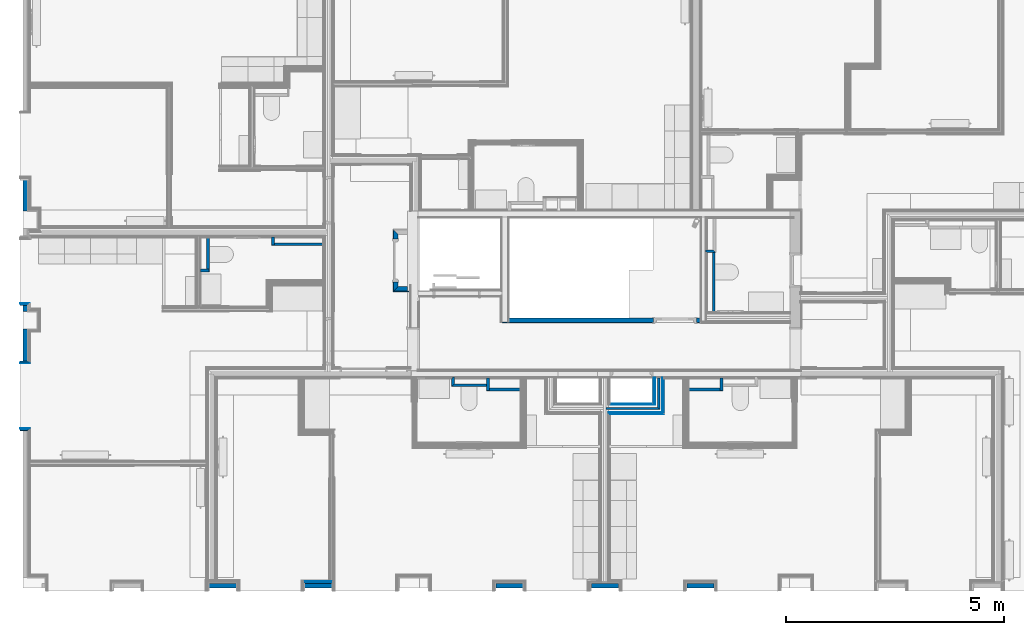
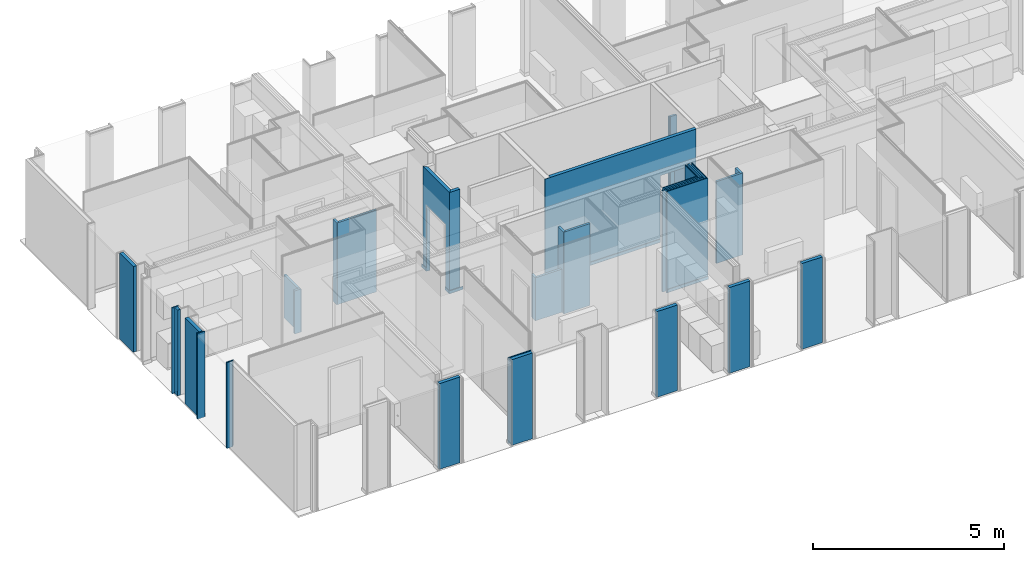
# One storey, part 3 of 65: 42 walls, 2 openings.
"""IFC2X3 building model written with IfcOpenShell, lengths in metres."""

import ifcopenshell
import ifcopenshell.guid

model = None  # the IFC model being written
_history = None  # IfcOwnerHistory: only IFC2X3 demands one
_inside = {}  # id of a spatial element -> (the spatial element, [elements in it])
_under = {}  # id of a project, library or spatial element -> (it, [spatial elements below it])
_declared = {}  # id of a project -> (the project, [libraries it declares])
_typed = {}  # id of a type object -> (the type object, [elements of that type])
_made_of = {}  # id of a material, layer set ... -> (it, [elements and type objects made of it])


def new_model(schema):
    """Start an empty IFC model of exactly this schema.

    Asked for "IFC4X3", IfcOpenShell would pick the latest addendum, in which some entities
    have other attributes; the version numbers below select the first issue.
    IFC2X3 requires an IfcOwnerHistory on every rooted entity: one is made here for all.
    """
    global model, _history
    if schema == "IFC4X3":
        model = ifcopenshell.file(schema_version=(4, 3, 0, 0))
    else:
        model = ifcopenshell.file(schema=schema)
    _inside.clear()
    _under.clear()
    _declared.clear()
    _typed.clear()
    _made_of.clear()
    _history = None
    if model.schema == "IFC2X3":
        org = make("IfcOrganization", Name="unknown")
        user = make(
            "IfcPersonAndOrganization",
            ThePerson=make("IfcPerson", FamilyName="unknown"),
            TheOrganization=org,
        )
        app = make(
            "IfcApplication",
            ApplicationDeveloper=org,
            Version="unknown",
            ApplicationFullName="unknown",
            ApplicationIdentifier="unknown",
        )
        _history = make(
            "IfcOwnerHistory",
            OwningUser=user,
            OwningApplication=app,
            ChangeAction="ADDED",
            CreationDate=0,
        )
    return model


def make(cls, **values):
    """One entity of the class cls with the attributes given. An attribute that is None is left unset."""
    return model.create_entity(
        cls, **{name: value for name, value in values.items() if value is not None}
    )


def entity(cls, *values):
    """Any entity or typed value of the class cls, its attributes in the order of the schema. None: left unset."""
    e = model.create_entity(cls)
    for i, value in enumerate(values):
        if value is not None:
            e[i] = value
    return e


def rooted(cls, **values):
    """An entity with a GlobalId (a new one), such as an element, a storey or a relation."""
    return make(cls, GlobalId=ifcopenshell.guid.new(), OwnerHistory=_history, **values)


def si_unit(unit_type, name, prefix=None):
    """IfcSIUnit, for example si_unit("LENGTHUNIT", "METRE", prefix="MILLI")."""
    return make("IfcSIUnit", UnitType=unit_type, Prefix=prefix, Name=name)


def converted_unit(unit_type, name, factor, base, dimensions=None, offset=None):
    """IfcConversionBasedUnit, such as the inch: factor (a typed value) times the base unit."""
    return make(
        "IfcConversionBasedUnit"
        if offset is None
        else "IfcConversionBasedUnitWithOffset",
        ConversionOffset=offset,
        Dimensions=None
        if dimensions is None
        else entity("IfcDimensionalExponents", *dimensions),
        UnitType=unit_type,
        Name=name,
        ConversionFactor=make(
            "IfcMeasureWithUnit", ValueComponent=factor, UnitComponent=base
        ),
    )


def derived_unit(unit_type, elements):
    """IfcDerivedUnit: a product of units, each with its exponent."""
    return make(
        "IfcDerivedUnit",
        Elements=[
            make("IfcDerivedUnitElement", Unit=unit, Exponent=power)
            for unit, power in elements
        ],
        UnitType=unit_type,
    )


def money_unit(currency):
    """IfcMonetaryUnit."""
    return make("IfcMonetaryUnit", Currency=currency)


def assignment(units):
    """IfcUnitAssignment: the units of a project."""
    return None if units is None else make("IfcUnitAssignment", Units=units)


def point(xyz):
    """IfcCartesianPoint."""
    return None if xyz is None else make("IfcCartesianPoint", Coordinates=xyz)


def direction(xyz):
    """IfcDirection."""
    return None if xyz is None else make("IfcDirection", DirectionRatios=xyz)


def frame(location, z_axis=None, x_axis=None):
    """IfcAxis2Placement3D, a coordinate frame: its origin and axes. An axis left out is left unset."""
    return make(
        "IfcAxis2Placement3D",
        Location=point(location),
        Axis=direction(z_axis),
        RefDirection=direction(x_axis),
    )


def frame_2d(location, x_axis=None):
    """IfcAxis2Placement2D, a coordinate frame in the plane: its origin and x axis."""
    return make(
        "IfcAxis2Placement2D", Location=point(location), RefDirection=direction(x_axis)
    )


def origin_with_axes():
    """The frame at (0, 0, 0) with the z axis (0, 0, 1) and the x axis (1, 0, 0) written out."""
    return frame((0.0, 0.0, 0.0), z_axis=(0.0, 0.0, 1.0), x_axis=(1.0, 0.0, 0.0))


def place(relative_to, where):
    """IfcLocalPlacement: puts the frame where relative to a parent placement (None: the world)."""
    return make(
        "IfcLocalPlacement", PlacementRelTo=relative_to, RelativePlacement=where
    )


def context(
    kind, dimensions, precision=None, world=None, true_north=None, identifier=None
):
    """IfcGeometricRepresentationContext, for example the 3D "Model" context."""
    return make(
        "IfcGeometricRepresentationContext",
        ContextIdentifier=identifier,
        ContextType=kind,
        CoordinateSpaceDimension=dimensions,
        Precision=precision,
        WorldCoordinateSystem=world,
        TrueNorth=true_north,
    )


def subcontext(parent, identifier, kind, view, scale=None):
    """IfcGeometricRepresentationSubContext, for example "Body" below "Model"."""
    return make(
        "IfcGeometricRepresentationSubContext",
        ContextIdentifier=identifier,
        ContextType=kind,
        ParentContext=parent,
        TargetScale=scale,
        TargetView=view,
    )


def project(units=None, contexts=None):
    """IfcProject with its units and contexts."""
    return rooted(
        "IfcProject",
        Name="project",
        RepresentationContexts=contexts,
        UnitsInContext=assignment(units),
    )


def spatial(cls, under=None, at=None, **own):
    """A site, building, storey or space (cls), placed at a placement, below another one or the project."""
    s = rooted(cls, ObjectPlacement=at, **own)
    if under is not None:
        _under.setdefault(under.id(), (under, []))[1].append(s)
    return s


def polyline(points):
    """IfcPolyline through the points."""
    return make("IfcPolyline", Points=[point(p) for p in points])


def profile(cls, at=None, kind="AREA", **sizes):
    """A parametric profile (cls). Its sizes go by their IFC names, for example OverallWidth=200.0."""
    return make(cls, ProfileType=kind, Position=at, **sizes)


def rectangle(**sizes):
    """IfcRectangleProfileDef."""
    return profile("IfcRectangleProfileDef", **sizes)


def outline(outer, holes=None, kind="AREA"):
    """IfcArbitraryClosedProfileDef: a profile drawn as a closed curve; with holes, ...WithVoids."""
    if holes is None:
        return make("IfcArbitraryClosedProfileDef", ProfileType=kind, OuterCurve=outer)
    return make(
        "IfcArbitraryProfileDefWithVoids",
        ProfileType=kind,
        OuterCurve=outer,
        InnerCurves=holes,
    )


def extrude(swept, where, along, depth):
    """IfcExtrudedAreaSolid: the profile swept, set in the frame where, extruded along a direction by depth."""
    return make(
        "IfcExtrudedAreaSolid",
        SweptArea=swept,
        Position=where,
        ExtrudedDirection=direction(along),
        Depth=depth,
    )


def clip(a, b, op="DIFFERENCE"):
    """IfcBooleanClippingResult: the solid a cut by the half space b."""
    return make(
        "IfcBooleanClippingResult", Operator=op, FirstOperand=a, SecondOperand=b
    )


def bounded_halfspace(plane, agree, where, boundary):
    """IfcPolygonalBoundedHalfSpace: a half space limited to a polygon's prism."""
    return make(
        "IfcPolygonalBoundedHalfSpace",
        BaseSurface=make("IfcPlane", Position=plane),
        AgreementFlag=agree,
        Position=where,
        PolygonalBoundary=boundary,
    )


def shape(context_of_items, identifier, shape_type, items):
    """IfcShapeRepresentation: the items that make up one representation, for example the "Body"."""
    return make(
        "IfcShapeRepresentation",
        ContextOfItems=context_of_items,
        RepresentationIdentifier=identifier,
        RepresentationType=shape_type,
        Items=items,
    )


def material(Name=None, Category=None):
    """IfcMaterial."""
    return make("IfcMaterial", Name=Name, Category=Category)


def layer(
    of_material, thickness, ventilated=None, Name=None, Category=None, Priority=None
):
    """IfcMaterialLayer: one layer of a wall or slab, of a material (None: an air gap)."""
    return make(
        "IfcMaterialLayer",
        Material=of_material,
        LayerThickness=thickness,
        IsVentilated=ventilated,
        Name=Name,
        Category=Category,
        Priority=Priority,
    )


def layer_set(layers, Name=None):
    """IfcMaterialLayerSet."""
    return make("IfcMaterialLayerSet", MaterialLayers=layers, LayerSetName=Name)


def layer_usage(for_layer_set, set_direction, sense, offset, extent=None):
    """IfcMaterialLayerSetUsage: how a layer set lies in its element."""
    return make(
        "IfcMaterialLayerSetUsage",
        ForLayerSet=for_layer_set,
        LayerSetDirection=set_direction,
        DirectionSense=sense,
        OffsetFromReferenceLine=offset,
        ReferenceExtent=extent,
    )


def made_of(thing, what):
    """Note that an element or type object is made of a material, layer set ...; save() writes the relation."""
    if what is not None:
        _made_of.setdefault(what.id(), (what, []))[1].append(thing)
    return thing


def type_object(cls, material=None, **own):
    """A type object (cls), such as IfcWallType, which elements share."""
    return made_of(rooted(cls, **own), material)


def element(
    cls,
    number,
    at=None,
    inside=None,
    cuts=None,
    type_object=None,
    material=None,
    context=None,
    identifier="Body",
    shape_type=None,
    held_by="IfcProductDefinitionShape",
    body=None,
    shapes=None,
    **own,
):
    """One element of the class cls, such as IfcWall. Its Tag is "e" and its number.

    at: its placement. inside: the storey or other place that contains it. cuts: it is an
    opening in that element (IfcRelVoidsElement). A single representation is given by context,
    identifier, shape_type and body (its items); several are given by shapes. held_by: the class
    of the entity that holds the representations. save() writes the other relations.
    """
    e = rooted(cls, Tag="e%d" % number, ObjectPlacement=at, **own)
    if body is not None:
        shapes = [shape(context, identifier, shape_type, body)]
    if shapes is not None:
        e.Representation = make(held_by, Representations=shapes)
    if inside is not None:
        _inside.setdefault(inside.id(), (inside, []))[1].append(e)
    if cuts is not None:
        rooted(
            "IfcRelVoidsElement", RelatingBuildingElement=cuts, RelatedOpeningElement=e
        )
    if type_object is not None:
        _typed.setdefault(type_object.id(), (type_object, []))[1].append(e)
    return made_of(e, material)


def aggregate(whole, parts):
    """IfcRelAggregates: a whole, such as a stair, and the parts it consists of."""
    return rooted("IfcRelAggregates", RelatingObject=whole, RelatedObjects=parts)


def save(model, path):
    """Write the relations noted so far, then the file.

    IfcRelAggregates (storeys below a building ...), IfcRelContainedInSpatialStructure (elements
    in a storey), IfcRelDefinesByType, IfcRelAssociatesMaterial and IfcRelDeclares: one each for
    every whole, place, type object, material and project.
    """
    for whole, parts in _under.values():
        aggregate(whole, parts)
    for where, things in _inside.values():
        rooted(
            "IfcRelContainedInSpatialStructure",
            RelatedElements=things,
            RelatingStructure=where,
        )
    for kind, things in _typed.values():
        rooted("IfcRelDefinesByType", RelatedObjects=things, RelatingType=kind)
    for what, things in _made_of.values():
        rooted("IfcRelAssociatesMaterial", RelatedObjects=things, RelatingMaterial=what)
    for by, libraries in _declared.values():
        rooted("IfcRelDeclares", RelatingContext=by, RelatedDefinitions=libraries)
    model.write(path)


model = new_model("IFC2X3")

# Units and contexts
model_context = context("Model", 3, precision=1e-05, world=origin_with_axes(), true_north=direction((0.0, 1.0)))
body_context = subcontext(model_context, "Body", "Model", "MODEL_VIEW", scale=1.0)
ifc_project = project(units=[si_unit("LENGTHUNIT", "METRE"), si_unit("AREAUNIT", "SQUARE_METRE"), si_unit("VOLUMEUNIT", "CUBIC_METRE"), si_unit("ABSORBEDDOSEUNIT", "GRAY"), si_unit("AMOUNTOFSUBSTANCEUNIT", "MOLE"), si_unit("DOSEEQUIVALENTUNIT", "SIEVERT"), si_unit("ELECTRICCAPACITANCEUNIT", "FARAD"), si_unit("ELECTRICCHARGEUNIT", "COULOMB"), si_unit("ELECTRICCONDUCTANCEUNIT", "SIEMENS"), si_unit("ELECTRICCURRENTUNIT", "AMPERE"), si_unit("ELECTRICRESISTANCEUNIT", "OHM"), si_unit("ELECTRICVOLTAGEUNIT", "VOLT"), si_unit("ENERGYUNIT", "JOULE"), si_unit("FORCEUNIT", "NEWTON"), si_unit("FREQUENCYUNIT", "HERTZ"), si_unit("ILLUMINANCEUNIT", "LUX"), si_unit("INDUCTANCEUNIT", "HENRY"), si_unit("LUMINOUSFLUXUNIT", "LUMEN"), si_unit("LUMINOUSINTENSITYUNIT", "CANDELA"), si_unit("MAGNETICFLUXDENSITYUNIT", "TESLA"), si_unit("MAGNETICFLUXUNIT", "WEBER"), si_unit("MASSUNIT", "GRAM"), converted_unit("PLANEANGLEUNIT", "degree", entity("IfcReal", 0.0174532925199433), si_unit("PLANEANGLEUNIT", "RADIAN"), dimensions=[0, 0, 0, 0, 0, 0, 0]), si_unit("POWERUNIT", "WATT"), si_unit("PRESSUREUNIT", "PASCAL"), si_unit("RADIOACTIVITYUNIT", "BECQUEREL"), si_unit("SOLIDANGLEUNIT", "STERADIAN"), si_unit("THERMODYNAMICTEMPERATUREUNIT", "KELVIN"), si_unit("TIMEUNIT", "SECOND"), derived_unit("ACCELERATIONUNIT", [(si_unit("LENGTHUNIT", "METRE"), 1), (si_unit("TIMEUNIT", "SECOND"), -2)]), derived_unit("ANGULARVELOCITYUNIT", [(converted_unit("PLANEANGLEUNIT", "degree", entity("IfcReal", 0.0174532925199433), si_unit("PLANEANGLEUNIT", "RADIAN"), dimensions=[0, 0, 0, 0, 0, 0, 0]), 1), (si_unit("TIMEUNIT", "SECOND"), -1)]), derived_unit("CURVATUREUNIT", [(converted_unit("PLANEANGLEUNIT", "degree", entity("IfcReal", 0.0174532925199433), si_unit("PLANEANGLEUNIT", "RADIAN"), dimensions=[0, 0, 0, 0, 0, 0, 0]), 1), (si_unit("LENGTHUNIT", "METRE"), -1)]), derived_unit("DYNAMICVISCOSITYUNIT", [(si_unit("PRESSUREUNIT", "PASCAL"), 1), (si_unit("TIMEUNIT", "SECOND"), 1)]), derived_unit("HEATFLUXDENSITYUNIT", [(si_unit("POWERUNIT", "WATT"), 1), (si_unit("LENGTHUNIT", "METRE"), -2)]), derived_unit("HEATINGVALUEUNIT", [(si_unit("ENERGYUNIT", "JOULE"), 1), (si_unit("MASSUNIT", "GRAM"), -1)]), derived_unit("INTEGERCOUNTRATEUNIT", [(si_unit("TIMEUNIT", "SECOND"), -1)]), derived_unit("IONCONCENTRATIONUNIT", [(si_unit("MASSUNIT", "GRAM"), 1), (si_unit("VOLUMEUNIT", "CUBIC_METRE"), -1)]), derived_unit("ISOTHERMALMOISTURECAPACITYUNIT", [(si_unit("VOLUMEUNIT", "CUBIC_METRE"), 1), (si_unit("MASSUNIT", "GRAM"), -1)]), derived_unit("KINEMATICVISCOSITYUNIT", [(si_unit("AREAUNIT", "SQUARE_METRE"), 1), (si_unit("TIMEUNIT", "SECOND"), -1)]), derived_unit("LINEARFORCEUNIT", [(si_unit("FORCEUNIT", "NEWTON"), 1), (si_unit("LENGTHUNIT", "METRE"), -1)]), derived_unit("LINEARMOMENTUNIT", [(si_unit("FORCEUNIT", "NEWTON"), 1), (si_unit("LENGTHUNIT", "METRE"), -1)]), derived_unit("LINEARSTIFFNESSUNIT", [(si_unit("FORCEUNIT", "NEWTON"), 1), (si_unit("LENGTHUNIT", "METRE"), -1)]), derived_unit("LINEARVELOCITYUNIT", [(si_unit("LENGTHUNIT", "METRE"), 1), (si_unit("TIMEUNIT", "SECOND"), -1)]), derived_unit("LUMINOUSINTENSITYDISTRIBUTIONUNIT", [(si_unit("LUMINOUSINTENSITYUNIT", "CANDELA"), 1), (si_unit("LUMINOUSFLUXUNIT", "LUMEN"), -1)]), derived_unit("MASSDENSITYUNIT", [(si_unit("MASSUNIT", "GRAM"), 1), (si_unit("VOLUMEUNIT", "CUBIC_METRE"), -1)]), derived_unit("MASSFLOWRATEUNIT", [(si_unit("MASSUNIT", "GRAM"), 1), (si_unit("TIMEUNIT", "SECOND"), -1)]), derived_unit("MASSPERLENGTHUNIT", [(si_unit("MASSUNIT", "GRAM"), 1), (si_unit("LENGTHUNIT", "METRE"), -1)]), derived_unit("MODULUSOFELASTICITYUNIT", [(si_unit("FORCEUNIT", "NEWTON"), 1), (si_unit("AREAUNIT", "SQUARE_METRE"), -1)]), derived_unit("MODULUSOFLINEARSUBGRADEREACTIONUNIT", [(si_unit("FORCEUNIT", "NEWTON"), 1), (si_unit("LENGTHUNIT", "METRE"), -2)]), derived_unit("MODULUSOFROTATIONALSUBGRADEREACTIONUNIT", [(si_unit("FORCEUNIT", "NEWTON"), 1), (si_unit("LENGTHUNIT", "METRE"), 1)]), derived_unit("MODULUSOFSUBGRADEREACTIONUNIT", [(si_unit("FORCEUNIT", "NEWTON"), 1), (si_unit("VOLUMEUNIT", "CUBIC_METRE"), -1)]), derived_unit("MOISTUREDIFFUSIVITYUNIT", [(si_unit("VOLUMEUNIT", "CUBIC_METRE"), 1), (si_unit("TIMEUNIT", "SECOND"), -1)]), derived_unit("MOLECULARWEIGHTUNIT", [(si_unit("MASSUNIT", "GRAM"), 1), (si_unit("AMOUNTOFSUBSTANCEUNIT", "MOLE"), -1)]), derived_unit("PLANARFORCEUNIT", [(si_unit("FORCEUNIT", "NEWTON"), 1), (si_unit("LENGTHUNIT", "METRE"), -2)]), derived_unit("ROTATIONALFREQUENCYUNIT", [(si_unit("TIMEUNIT", "SECOND"), -1)]), derived_unit("ROTATIONALMASSUNIT", [(si_unit("MASSUNIT", "GRAM"), 1), (si_unit("LENGTHUNIT", "METRE"), 2)]), derived_unit("ROTATIONALSTIFFNESSUNIT", [(si_unit("FORCEUNIT", "NEWTON"), 1), (si_unit("LENGTHUNIT", "METRE"), 1), (converted_unit("PLANEANGLEUNIT", "degree", entity("IfcReal", 0.0174532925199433), si_unit("PLANEANGLEUNIT", "RADIAN"), dimensions=[0, 0, 0, 0, 0, 0, 0]), -1)]), derived_unit("SECTIONAREAINTEGRALUNIT", [(si_unit("LENGTHUNIT", "METRE"), 5)]), derived_unit("SECTIONMODULUSUNIT", [(si_unit("LENGTHUNIT", "METRE"), 3)]), derived_unit("SHEARMODULUSUNIT", [(si_unit("FORCEUNIT", "NEWTON"), 1), (si_unit("AREAUNIT", "SQUARE_METRE"), -1)]), derived_unit("SOUNDPOWERUNIT", [(si_unit("ENERGYUNIT", "JOULE"), 1), (si_unit("TIMEUNIT", "SECOND"), -1)]), derived_unit("SPECIFICHEATCAPACITYUNIT", [(si_unit("FORCEUNIT", "NEWTON"), 1), (si_unit("MASSUNIT", "GRAM"), -1), (si_unit("THERMODYNAMICTEMPERATUREUNIT", "KELVIN"), -1)]), derived_unit("TEMPERATUREGRADIENTUNIT", [(si_unit("THERMODYNAMICTEMPERATUREUNIT", "KELVIN"), 1), (si_unit("LENGTHUNIT", "METRE"), -1)]), derived_unit("THERMALADMITTANCEUNIT", [(si_unit("POWERUNIT", "WATT"), 1), (si_unit("AREAUNIT", "SQUARE_METRE"), -1), (si_unit("THERMODYNAMICTEMPERATUREUNIT", "KELVIN"), -1)]), derived_unit("THERMALCONDUCTANCEUNIT", [(si_unit("POWERUNIT", "WATT"), 1), (si_unit("LENGTHUNIT", "METRE"), -1), (si_unit("THERMODYNAMICTEMPERATUREUNIT", "KELVIN"), -1)]), derived_unit("THERMALEXPANSIONCOEFFICIENTUNIT", [(si_unit("THERMODYNAMICTEMPERATUREUNIT", "KELVIN"), -1)]), derived_unit("THERMALRESISTANCEUNIT", [(si_unit("AREAUNIT", "SQUARE_METRE"), 1), (si_unit("POWERUNIT", "WATT"), -1)]), derived_unit("THERMALTRANSMITTANCEUNIT", [(si_unit("POWERUNIT", "WATT"), 1), (si_unit("AREAUNIT", "SQUARE_METRE"), -1), (si_unit("THERMODYNAMICTEMPERATUREUNIT", "KELVIN"), -1)]), derived_unit("TORQUEUNIT", [(si_unit("FORCEUNIT", "NEWTON"), 1), (si_unit("LENGTHUNIT", "METRE"), 1)]), derived_unit("VAPORPERMEABILITYUNIT", [(si_unit("MASSUNIT", "GRAM"), 1), (si_unit("TIMEUNIT", "SECOND"), -1)]), derived_unit("VOLUMETRICFLOWRATEUNIT", [(si_unit("VOLUMEUNIT", "CUBIC_METRE"), 1), (si_unit("TIMEUNIT", "SECOND"), -1)]), derived_unit("WARPINGCONSTANTUNIT", [(si_unit("LENGTHUNIT", "METRE"), 6)]), derived_unit("WARPINGMOMENTUNIT", [(si_unit("FORCEUNIT", "NEWTON"), 1), (si_unit("LENGTHUNIT", "METRE"), 2)]), money_unit("GBP")], contexts=[model_context])

# Site, building, storey
site_placement = place(None, origin_with_axes())
site = spatial("IfcSite", under=ifc_project, at=site_placement, Name="Site", CompositionType="ELEMENT")
building_placement = place(site_placement, origin_with_axes())
building = spatial("IfcBuilding", under=site, at=building_placement, Name="Building01", CompositionType="ELEMENT")
storey_placement = place(building_placement, frame((0.0, 0.0, 8.64), z_axis=(0.0, 0.0, 1.0), x_axis=(1.0, 0.0, 0.0)))
storey = spatial("IfcBuildingStorey", under=building, at=storey_placement, Name="2F", CompositionType="ELEMENT", Elevation=8.64)

# Walls
ifc_material_1 = material(Name="A_BSUK_WallsExternal_Block")
ifc_layer_1 = layer(ifc_material_1, 0.1, ventilated=False)
ifc_layer_set_1 = layer_set([ifc_layer_1])
ifc_layer_usage_1 = layer_usage(ifc_layer_set_1, "AXIS2", "POSITIVE", 0.0)
wall_type_1 = type_object("IfcWallType", Name="A-Walls-ExternalBlock", PredefinedType="NOTDEFINED")
wall_1_placement = place(storey_placement, frame((0.17, 9.51418, 0.0), z_axis=(0.0, 0.0, 1.0), x_axis=(0.0, -1.0, 0.0)))
element("IfcWallStandardCase", 1, at=wall_1_placement, inside=storey, type_object=wall_type_1, material=ifc_layer_usage_1, Name="A-Walls-ExternalBlock", ObjectType="A-Walls-ExternalBlock", context=body_context, shape_type="SweptSolid", body=[
    extrude(rectangle(XDim=0.1, YDim=0.71418, at=frame_2d((0.35709, 0.05), x_axis=(0.0, -1.0))), origin_with_axes(), (0.0, 0.0, 1.0), 2.74),
])
wall_2_placement = place(storey_placement, frame((0.17, 6.64418, 0.0), z_axis=(0.0, 0.0, 1.0), x_axis=(0.0, -1.0, 0.0)))
element("IfcWallStandardCase", 2, at=wall_2_placement, inside=storey, type_object=wall_type_1, material=ifc_layer_usage_1, Name="A-Walls-ExternalBlock", ObjectType="A-Walls-ExternalBlock", context=body_context, shape_type="SweptSolid", body=[
    extrude(rectangle(XDim=0.14418, YDim=0.1, at=frame_2d((0.07209, 0.05), x_axis=(1.0, 0.0))), origin_with_axes(), (0.0, 0.0, 1.0), 2.74),
])
wall_3_placement = place(storey_placement, frame((0.17, 6.1, 0.0), z_axis=(0.0, 0.0, 1.0), x_axis=(0.0, -1.0, 0.0)))
element("IfcWallStandardCase", 3, at=wall_3_placement, inside=storey, type_object=wall_type_1, material=ifc_layer_usage_1, Name="A-Walls-ExternalBlock", ObjectType="A-Walls-ExternalBlock", context=body_context, shape_type="SweptSolid", body=[
    extrude(rectangle(XDim=0.737, YDim=0.1, at=frame_2d((0.3685, 0.05), x_axis=(1.0, 0.0))), origin_with_axes(), (0.0, 0.0, 1.0), 2.74),
])
for number, where, z_axis, x_axis, name in (
    (4, (5.057, 0.27, 0.0), (0.0, 0.0, 1.0), (-1.0, 0.0, 0.0), "A-Walls-ExternalBlock"),
    (5, (7.247, 0.27, 0.0), (0.0, 0.0, 1.0), (-1.0, 0.0, 0.0), "A-Walls-ExternalBlock"),
    (6, (11.627, 0.27, 0.0), (0.0, 0.0, 1.0), (-1.0, 0.0, 0.0), "A-Walls-ExternalBlock"),
    (7, (13.817, 0.27, 0.0), (0.0, 0.0, 1.0), (-1.0, 0.0, 0.0), "A-Walls-ExternalBlock"),
    (8, (16.007, 0.27, 0.0), (0.0, 0.0, 1.0), (-1.0, 0.0, 0.0), "A-Walls-ExternalBlock"),
):
    element("IfcWallStandardCase", number, at=place(storey_placement, frame(where, z_axis=z_axis, x_axis=x_axis)), inside=storey, type_object=wall_type_1, material=ifc_layer_usage_1, Name=name, ObjectType="A-Walls-ExternalBlock", context=body_context, shape_type="SweptSolid", body=[
        extrude(rectangle(XDim=0.624, YDim=0.1, at=frame_2d((0.312, 0.05), x_axis=(-1.0, 0.0))), origin_with_axes(), (0.0, 0.0, 1.0), 2.74),
    ])
ifc_material_2 = material(Name="A_BSUK_Walls_Timber")
ifc_layer_2 = layer(ifc_material_2, 0.015, ventilated=False)
ifc_material_3 = material(Name="A_BSUK_OpeningsClearance")
ifc_layer_3 = layer(ifc_material_3, 0.05, ventilated=False)
ifc_layer_set_2 = layer_set([ifc_layer_2, ifc_layer_3])
ifc_layer_usage_2 = layer_usage(ifc_layer_set_2, "AXIS2", "POSITIVE", 0.0)
wall_type_2 = type_object("IfcWallType", Name="SHE_A-Walls_Type05c_PreWallShell_65mm", PredefinedType="NOTDEFINED")
wall_4_placement = place(storey_placement, frame((15.815, 7.915, 0.0), z_axis=(0.0, 0.0, 1.0), x_axis=(1.0, 0.0, 0.0)))
element("IfcWallStandardCase", 9, at=wall_4_placement, inside=storey, type_object=wall_type_2, material=ifc_layer_usage_2, Name="5C", ObjectType="SHE_A-Walls_Type05c_PreWallShell_65mm", context=body_context, shape_type="SweptSolid", body=[
    extrude(outline(polyline([(0.17, 0.0), (0.0, 0.0), (0.0, -0.05), (0.03, -0.05), (0.03, -0.065), (0.235, -0.065), (0.17, 0.0)])), origin_with_axes(), (0.0, 0.0, 1.0), 2.615),
])
wall_5_placement = place(storey_placement, frame((15.965, 6.59, 0.0), z_axis=(0.0, 0.0, 1.0), x_axis=(0.0, 1.0, 0.0)))
element("IfcWallStandardCase", 10, at=wall_5_placement, inside=storey, type_object=wall_type_2, material=ifc_layer_usage_2, Name="5C", ObjectType="SHE_A-Walls_Type05c_PreWallShell_65mm", context=body_context, shape_type="SweptSolid", body=[
    extrude(outline(polyline([(1.275, -0.05), (1.275, 0.0), (-0.103, 0.0), (-0.103, -0.05), (-0.115, -0.05), (-0.115, -0.065), (1.325, -0.065), (1.325, -0.05), (1.275, -0.05)])), origin_with_axes(), (0.0, 0.0, 1.0), 1.375),
])
wall_6_placement = place(storey_placement, frame((16.1425, 4.695, 0.0), z_axis=(0.0, 0.0, 1.0), x_axis=(0.0, 1.0, 0.0)))
element("IfcWallStandardCase", 11, at=wall_6_placement, inside=storey, type_object=wall_type_2, material=ifc_layer_usage_2, Name="5C", ObjectType="SHE_A-Walls_Type05c_PreWallShell_65mm", context=body_context, shape_type="SweptSolid", body=[
    extrude(outline(polyline([(0.285, 0.0), (0.0, 0.0), (0.0, -0.05), (-0.015, -0.05), (-0.015, -0.065), (0.285, -0.065), (0.285, 0.0)])), origin_with_axes(), (0.0, 0.0, 1.0), 2.615),
])
wall_7_placement = place(storey_placement, frame((15.4075, 4.745, 0.0), z_axis=(0.0, 0.0, 1.0), x_axis=(1.0, 0.0, 0.0)))
element("IfcWallStandardCase", 12, at=wall_7_placement, inside=storey, type_object=wall_type_2, material=ifc_layer_usage_2, Name="5C", ObjectType="SHE_A-Walls_Type05c_PreWallShell_65mm", context=body_context, shape_type="SweptSolid", body=[
    extrude(outline(polyline([(0.735, -0.05), (0.735, 0.0), (0.0, 0.0), (0.0, -0.065), (0.785, -0.065), (0.785, -0.05), (0.735, -0.05)])), origin_with_axes(), (0.0, 0.0, 1.0), 2.615),
])
wall_8_placement = place(storey_placement, frame((10.057536, 4.845, 0.0), z_axis=(0.0, 0.0, 1.0), x_axis=(0.0, -1.0, 0.0)))
element("IfcWallStandardCase", 13, at=wall_8_placement, inside=storey, type_object=wall_type_2, material=ifc_layer_usage_2, Name="5C", ObjectType="SHE_A-Walls_Type05c_PreWallShell_65mm", context=body_context, shape_type="SweptSolid", body=[
    extrude(outline(polyline([(0.065, -0.065), (0.0, 0.0), (-0.15, 0.0), (-0.15, -0.05), (-0.12, -0.05), (-0.12, -0.065), (0.065, -0.065)])), origin_with_axes(), (0.0, 0.0, 1.0), 1.375),
])
wall_9_placement = place(storey_placement, frame((10.792536, 4.845, 0.0), z_axis=(0.0, 0.0, 1.0), x_axis=(1.0, 0.0, 0.0)))
element("IfcWallStandardCase", 14, at=wall_9_placement, inside=storey, type_object=wall_type_2, material=ifc_layer_usage_2, Name="5C", ObjectType="SHE_A-Walls_Type05c_PreWallShell_65mm", context=body_context, shape_type="SweptSolid", body=[
    extrude(outline(polyline([(0.0, -0.065), (0.0, 0.0), (-0.735, 0.0), (-0.8, -0.065), (0.0, -0.065)])), origin_with_axes(), (0.0, 0.0, 1.0), 1.375),
])
wall_10_placement = place(storey_placement, frame((10.857536, 4.695, 0.0), z_axis=(0.0, 0.0, 1.0), x_axis=(0.0, -1.0, 0.0)))
element("IfcWallStandardCase", 15, at=wall_10_placement, inside=storey, type_object=wall_type_2, material=ifc_layer_usage_2, Name="5C", ObjectType="SHE_A-Walls_Type05c_PreWallShell_65mm", context=body_context, shape_type="SweptSolid", body=[
    extrude(outline(polyline([(0.015, -0.065), (0.015, -0.05), (0.0, -0.05), (0.0, 0.0), (-0.285, 0.0), (-0.285, -0.065), (0.015, -0.065)])), origin_with_axes(), (0.0, 0.0, 1.0), 2.615),
])
wall_11_placement = place(storey_placement, frame((11.592536, 4.745, 0.0), z_axis=(0.0, 0.0, 1.0), x_axis=(1.0, 0.0, 0.0)))
element("IfcWallStandardCase", 16, at=wall_11_placement, inside=storey, type_object=wall_type_2, material=ifc_layer_usage_2, Name="5C", ObjectType="SHE_A-Walls_Type05c_PreWallShell_65mm", context=body_context, shape_type="SweptSolid", body=[
    extrude(outline(polyline([(0.0, -0.065), (0.0, 0.0), (-0.735, 0.0), (-0.735, -0.05), (-0.785, -0.05), (-0.785, -0.065), (0.0, -0.065)])), origin_with_axes(), (0.0, 0.0, 1.0), 2.615),
])
ifc_layer_set_3 = layer_set([ifc_layer_3, ifc_layer_2])
ifc_layer_usage_3 = layer_usage(ifc_layer_set_3, "AXIS2", "POSITIVE", 0.0)
wall_12_placement = place(storey_placement, frame((5.929669, 8.21067, 0.0), z_axis=(0.0, 0.0, 1.0), x_axis=(0.0, 1.0, 0.0)))
element("IfcWallStandardCase", 17, at=wall_12_placement, inside=storey, type_object=wall_type_2, material=ifc_layer_usage_3, Name="5C", ObjectType="SHE_A-Walls_Type05c_PreWallShell_65mm", context=body_context, shape_type="SweptSolid", body=[
    extrude(outline(polyline([(0.0, 0.0), (0.0, 0.065), (-0.2, 0.065), (-0.2, 0.05), (-0.185, 0.05), (-0.185, 0.0), (0.0, 0.0)])), origin_with_axes(), (0.0, 0.0, 1.0), 2.615),
])
wall_13_placement = place(storey_placement, frame((5.929669, 8.07567, 0.0), z_axis=(0.0, 0.0, 1.0), x_axis=(1.0, 0.0, 0.0)))
element("IfcWallStandardCase", 18, at=wall_13_placement, inside=storey, type_object=wall_type_2, material=ifc_layer_usage_2, Name="5C", ObjectType="SHE_A-Walls_Type05c_PreWallShell_65mm", context=body_context, shape_type="SweptSolid", body=[
    extrude(outline(polyline([(1.135, 0.0), (0.0, 0.0), (0.0, -0.05), (-0.05, -0.05), (-0.05, -0.065), (1.135, -0.065), (1.135, 0.0)])), origin_with_axes(), (0.0, 0.0, 1.0), 2.615),
])
wall_14_placement = place(storey_placement, frame((4.37573, 8.21067, 0.0), z_axis=(0.0, 0.0, 1.0), x_axis=(0.0, -1.0, 0.0)))
element("IfcWallStandardCase", 19, at=wall_14_placement, inside=storey, type_object=wall_type_2, material=ifc_layer_usage_3, Name="5C", ObjectType="SHE_A-Walls_Type05c_PreWallShell_65mm", context=body_context, shape_type="SweptSolid", body=[
    extrude(outline(polyline([(0.735, 0.05), (0.8, 0.05), (0.8, 0.065), (0.0, 0.065), (0.0, 0.0), (0.735, 0.0), (0.735, 0.05)])), origin_with_axes(), (0.0, 0.0, 1.0), 1.375),
])
wall_15_placement = place(storey_placement, frame((4.42573, 7.47567, 0.0), z_axis=(0.0, 0.0, 1.0), x_axis=(-1.0, 0.0, 0.0)))
element("IfcWallStandardCase", 20, at=wall_15_placement, inside=storey, type_object=wall_type_2, material=ifc_layer_usage_3, Name="5C", ObjectType="SHE_A-Walls_Type05c_PreWallShell_65mm", context=body_context, shape_type="SweptSolid", body=[
    extrude(rectangle(XDim=0.185, YDim=0.065, at=frame_2d((0.0925, 0.0325), x_axis=(-1.0, 0.0))), origin_with_axes(), (0.0, 0.0, 1.0), 1.375),
])
ifc_material_4 = material(Name="A_BSUK_WallInternal_Finishes_Plasterboard")
ifc_layer_4 = layer(ifc_material_4, 0.013, ventilated=False)
ifc_layer_set_4 = layer_set([ifc_layer_4])
ifc_layer_usage_4 = layer_usage(ifc_layer_set_4, "AXIS2", "POSITIVE", 0.0)
wall_type_3 = type_object("IfcWallType", Name="default", PredefinedType="NOTDEFINED")
wall_16_placement = place(storey_placement, frame((0.1, 6.67918, 0.0), z_axis=(0.0, 0.0, 1.0), x_axis=(1.0, 0.0, 0.0)))
element("IfcWallStandardCase", 21, at=wall_16_placement, inside=storey, type_object=wall_type_3, material=ifc_layer_usage_4, Name="default", ObjectType="default", context=body_context, shape_type="SweptSolid", body=[
    extrude(outline(polyline([(0.218, 0.013), (0.0, 0.013), (0.0, 0.0), (0.205, 0.0), (0.218, 0.013)])), origin_with_axes(), (0.0, 0.0, 1.0), 2.74),
])
ifc_material_5 = material(Name="A_BSUK_Insulation")
ifc_layer_5 = layer(ifc_material_5, 0.036, ventilated=False)
ifc_layer_set_5 = layer_set([ifc_layer_5])
ifc_layer_usage_5 = layer_usage(ifc_layer_set_5, "AXIS2", "POSITIVE", 0.0)
wall_17_placement = place(storey_placement, frame((0.1, 6.64418, 0.0), z_axis=(0.0, 0.0, 1.0), x_axis=(1.0, 0.0, 0.0)))
element("IfcWallStandardCase", 22, at=wall_17_placement, inside=storey, type_object=wall_type_3, material=ifc_layer_usage_5, Name="default", ObjectType="default", context=body_context, shape_type="SweptSolid", body=[
    extrude(outline(polyline([(0.206, 0.036), (0.0, 0.036), (0.0, 0.0), (0.17, 0.0), (0.206, 0.036)])), origin_with_axes(), (0.0, 0.0, 1.0), 2.74),
])
wall_18_placement = place(storey_placement, frame((0.305, 5.328, 0.0), z_axis=(0.0, 0.0, 1.0), x_axis=(-1.0, 0.0, 0.0)))
element("IfcWallStandardCase", 23, at=wall_18_placement, inside=storey, type_object=wall_type_3, material=ifc_layer_usage_4, Name="default", ObjectType="default", context=body_context, shape_type="SweptSolid", body=[
    extrude(outline(polyline([(-0.013, 0.013), (0.0, 0.0), (0.205, 0.0), (0.205, 0.013), (-0.013, 0.013)])), origin_with_axes(), (0.0, 0.0, 1.0), 2.74),
])
wall_19_placement = place(storey_placement, frame((0.27, 5.363, 0.0), z_axis=(0.0, 0.0, 1.0), x_axis=(-1.0, 0.0, 0.0)))
element("IfcWallStandardCase", 24, at=wall_19_placement, inside=storey, type_object=wall_type_3, material=ifc_layer_usage_5, Name="default", ObjectType="default", context=body_context, shape_type="SweptSolid", body=[
    extrude(outline(polyline([(-0.036, 0.036), (0.0, 0.0), (0.17, 0.0), (0.17, 0.036), (-0.036, 0.036)])), origin_with_axes(), (0.0, 0.0, 1.0), 2.74),
])
wall_20_placement = place(storey_placement, frame((0.1, 3.80918, 0.0), z_axis=(0.0, 0.0, 1.0), x_axis=(1.0, 0.0, 0.0)))
element("IfcWallStandardCase", 25, at=wall_20_placement, inside=storey, type_object=wall_type_3, material=ifc_layer_usage_4, Name="default", ObjectType="default", context=body_context, shape_type="SweptSolid", body=[
    extrude(outline(polyline([(0.218, 0.013), (0.0, 0.013), (0.0, 0.0), (0.205, 0.0), (0.218, 0.013)])), origin_with_axes(), (0.0, 0.0, 1.0), 2.74),
])
wall_21_placement = place(storey_placement, frame((0.1, 3.77418, 0.0), z_axis=(0.0, 0.0, 1.0), x_axis=(1.0, 0.0, 0.0)))
element("IfcWallStandardCase", 26, at=wall_21_placement, inside=storey, type_object=wall_type_3, material=ifc_layer_usage_5, Name="default", ObjectType="default", context=body_context, shape_type="SweptSolid", body=[
    extrude(outline(polyline([(0.206, 0.036), (0.0, 0.036), (0.0, 0.0), (0.17, 0.0), (0.206, 0.036)])), origin_with_axes(), (0.0, 0.0, 1.0), 2.74),
])
ifc_layer_6 = layer(ifc_material_4, 0.015, ventilated=False)
ifc_layer_set_6 = layer_set([ifc_layer_6])
ifc_layer_usage_6 = layer_usage(ifc_layer_set_6, "AXIS2", "POSITIVE", 0.0)
wall_22_placement = place(storey_placement, frame((14.625, 4.389428, 0.0), z_axis=(0.0, 0.0, 1.0), x_axis=(-1.0, 0.0, 0.0)))
element("IfcWallStandardCase", 27, at=wall_22_placement, inside=storey, type_object=wall_type_3, material=ifc_layer_usage_6, Name="default", ObjectType="default", context=body_context, shape_type="SweptSolid", body=[
    extrude(outline(polyline([(1.0275, 0.015), (-0.015, 0.015), (0.0, 0.0), (1.0275, 0.0), (1.0275, 0.015)])), origin_with_axes(), (0.0, 0.0, 1.0), 3.24),
])
wall_23_placement = place(storey_placement, frame((14.64, 4.374428, 0.0), z_axis=(0.0, 0.0, 1.0), x_axis=(-1.0, 0.0, 0.0)))
element("IfcWallStandardCase", 28, at=wall_23_placement, inside=storey, type_object=wall_type_3, material=ifc_layer_usage_6, Name="default", ObjectType="default", context=body_context, shape_type="SweptSolid", body=[
    extrude(outline(polyline([(1.0425, 0.015), (-0.015, 0.015), (0.0, 0.0), (1.0425, 0.0), (1.0425, 0.015)])), origin_with_axes(), (0.0, 0.0, 1.0), 3.24),
])
ifc_layer_7 = layer(ifc_material_5, 0.05, ventilated=False)
ifc_layer_set_7 = layer_set([ifc_layer_7])
ifc_layer_usage_7 = layer_usage(ifc_layer_set_7, "AXIS2", "POSITIVE", 0.0)
wall_24_placement = place(storey_placement, frame((14.712, 4.302428, 0.0), z_axis=(0.0, 0.0, 1.0), x_axis=(-1.0, 0.0, 0.0)))
element("IfcWallStandardCase", 29, at=wall_24_placement, inside=storey, type_object=wall_type_3, material=ifc_layer_usage_7, Name="default", ObjectType="default", context=body_context, shape_type="SweptSolid", body=[
    extrude(outline(polyline([(1.1865, 0.05), (-0.05, 0.05), (0.0, 0.0), (1.1865, 0.0), (1.1865, 0.05)])), origin_with_axes(), (0.0, 0.0, 1.0), 3.24),
])
for number, where, z_axis, x_axis, name in (
    (30, (14.82, 4.194428, 0.0), (0.0, 0.0, 1.0), (-1.0, 0.0, 0.0), "default"),
    (31, (14.835, 4.179428, 0.0), (0.0, 0.0, 1.0), (-1.0, 0.0, 0.0), "default"),
):
    element("IfcWallStandardCase", number, at=place(storey_placement, frame(where, z_axis=z_axis, x_axis=x_axis)), inside=storey, type_object=wall_type_3, material=ifc_layer_usage_6, Name=name, ObjectType="default", context=body_context, shape_type="SweptSolid", body=[
        extrude(outline(polyline([(1.2225, 0.015), (-0.015, 0.015), (0.0, 0.0), (1.2225, 0.0), (1.2225, 0.015)])), origin_with_axes(), (0.0, 0.0, 1.0), 3.24),
    ])
ifc_layer_set_8 = layer_set([ifc_layer_2])
ifc_layer_usage_8 = layer_usage(ifc_layer_set_8, "AXIS2", "POSITIVE", 0.0)
wall_25_placement = place(storey_placement, frame((14.865, 4.164428, 0.015), z_axis=(0.0, 0.0, 1.0), x_axis=(-1.0, 0.0, 0.0)))
element("IfcWallStandardCase", 32, at=wall_25_placement, inside=storey, type_object=wall_type_3, material=ifc_layer_usage_8, Name="default", ObjectType="default", context=body_context, shape_type="SweptSolid", body=[
    extrude(rectangle(XDim=1.2375, YDim=0.015, at=frame_2d((0.61875, 0.0075), x_axis=(-1.0, 0.0))), origin_with_axes(), (0.0, 0.0, 1.0), 0.1),
])
wall_26_placement = place(storey_placement, frame((14.625, 4.98, 0.0), z_axis=(0.0, 0.0, 1.0), x_axis=(0.0, -1.0, 0.0)))
element("IfcWallStandardCase", 33, at=wall_26_placement, inside=storey, type_object=wall_type_3, material=ifc_layer_usage_6, Name="default", ObjectType="default", context=body_context, shape_type="SweptSolid", body=[
    extrude(outline(polyline([(0.605572, 0.015), (0.0, 0.015), (0.0, 0.0), (0.590572, 0.0), (0.605572, 0.015)])), origin_with_axes(), (0.0, 0.0, 1.0), 3.24),
])
wall_27_placement = place(storey_placement, frame((14.64, 4.98, 0.0), z_axis=(0.0, 0.0, 1.0), x_axis=(0.0, -1.0, 0.0)))
element("IfcWallStandardCase", 34, at=wall_27_placement, inside=storey, type_object=wall_type_3, material=ifc_layer_usage_6, Name="default", ObjectType="default", context=body_context, shape_type="SweptSolid", body=[
    extrude(outline(polyline([(0.620572, 0.015), (0.0, 0.015), (0.0, 0.0), (0.605572, 0.0), (0.620572, 0.015)])), origin_with_axes(), (0.0, 0.0, 1.0), 3.24),
])
wall_28_placement = place(storey_placement, frame((14.712, 4.98, 0.0), z_axis=(0.0, 0.0, 1.0), x_axis=(0.0, -1.0, 0.0)))
element("IfcWallStandardCase", 35, at=wall_28_placement, inside=storey, type_object=wall_type_3, material=ifc_layer_usage_7, Name="default", ObjectType="default", context=body_context, shape_type="SweptSolid", body=[
    extrude(outline(polyline([(0.727572, 0.05), (0.0, 0.05), (0.0, 0.0), (0.677572, 0.0), (0.727572, 0.05)])), origin_with_axes(), (0.0, 0.0, 1.0), 3.24),
])
wall_29_placement = place(storey_placement, frame((14.82, 4.98, 0.0), z_axis=(0.0, 0.0, 1.0), x_axis=(0.0, -1.0, 0.0)))
element("IfcWallStandardCase", 36, at=wall_29_placement, inside=storey, type_object=wall_type_3, material=ifc_layer_usage_6, Name="default", ObjectType="default", context=body_context, shape_type="SweptSolid", body=[
    extrude(outline(polyline([(0.800572, 0.015), (0.0, 0.015), (0.0, 0.0), (0.785572, 0.0), (0.800572, 0.015)])), origin_with_axes(), (0.0, 0.0, 1.0), 3.24),
])
wall_30_placement = place(storey_placement, frame((14.835, 4.98, 0.0), z_axis=(0.0, 0.0, 1.0), x_axis=(0.0, -1.0, 0.0)))
element("IfcWallStandardCase", 37, at=wall_30_placement, inside=storey, type_object=wall_type_3, material=ifc_layer_usage_6, Name="default", ObjectType="default", context=body_context, shape_type="SweptSolid", body=[
    extrude(outline(polyline([(0.815572, 0.015), (0.0, 0.015), (0.0, 0.0), (0.800572, 0.0), (0.815572, 0.015)])), origin_with_axes(), (0.0, 0.0, 1.0), 3.24),
])
wall_31_placement = place(storey_placement, frame((6.588, 0.305, 0.0), z_axis=(0.0, 0.0, 1.0), x_axis=(1.0, 0.0, 0.0)))
element("IfcWallStandardCase", 38, at=wall_31_placement, inside=storey, type_object=wall_type_3, material=ifc_layer_usage_4, Name="default", ObjectType="default", context=body_context, shape_type="SweptSolid", body=[
    extrude(outline(polyline([(0.707, 0.013), (-0.013, 0.013), (0.0, 0.0), (0.694, 0.0), (0.707, 0.013)])), origin_with_axes(), (0.0, 0.0, 1.0), 2.74),
])
wall_32_placement = place(storey_placement, frame((6.623, 0.27, 0.0), z_axis=(0.0, 0.0, 1.0), x_axis=(1.0, 0.0, 0.0)))
element("IfcWallStandardCase", 39, at=wall_32_placement, inside=storey, type_object=wall_type_3, material=ifc_layer_usage_5, Name="default", ObjectType="default", context=body_context, shape_type="SweptSolid", body=[
    extrude(outline(polyline([(0.66, 0.036), (-0.036, 0.036), (0.0, 0.0), (0.624, 0.0), (0.66, 0.036)])), origin_with_axes(), (0.0, 0.0, 1.0), 2.74),
])
ifc_material_6 = material(Name="Air Cavity")
ifc_layer_8 = layer(ifc_material_6, 0.072, ventilated=False)
ifc_layer_set_9 = layer_set([ifc_layer_6, ifc_layer_8, ifc_layer_6, ifc_layer_2])
ifc_layer_usage_9 = layer_usage(ifc_layer_set_9, "AXIS2", "POSITIVE", 0.0)
wall_type_4 = type_object("IfcWallType", Name="SHE_A-Walls_Type04c_RiserWall_102mm_tall", PredefinedType="NOTDEFINED")
wall_33_placement = place(storey_placement, frame((9.06, 6.968405, 0.015), z_axis=(0.0, 0.0, 1.0), x_axis=(-1.0, 0.0, 0.0)))
element("IfcWallStandardCase", 40, at=wall_33_placement, inside=storey, type_object=wall_type_4, material=ifc_layer_usage_9, Name="4C", ObjectType="SHE_A-Walls_Type04c_RiserWall_102mm_tall", context=body_context, shape_type="Clipping", body=[
    clip(clip(extrude(outline(polyline([(0.417, 0.015), (0.0, 0.015), (0.0, 0.0), (0.085, 0.0), (0.085, -0.102), (0.3, -0.102), (0.417, 0.015)])), frame((0.0, 0.0, -0.015), z_axis=(0.0, 0.0, 1.0), x_axis=(1.0, 0.0, 0.0)), (0.0, 0.0, 1.0), 3.24), bounded_halfspace(frame((0.0, 0.0, 0.1), z_axis=(0.0, 0.0, 1.0), x_axis=(1.0, 0.0, 0.0)), False, frame((0.0, 0.0, 0.1), z_axis=(0.0, 0.0, 1.0), x_axis=(1.0, 0.0, 0.0)), polyline([(0.417, 0.015), (0.0, 0.015), (0.0, 0.0), (0.402, 0.0), (0.417, 0.015)]))), bounded_halfspace(frame((0.0, 0.0, 0.0), z_axis=(0.0, 0.0, -1.0), x_axis=(-1.0, 0.0, 0.0)), False, frame((0.0, 0.0, 0.0), z_axis=(0.0, 0.0, -1.0), x_axis=(-1.0, 0.0, 0.0)), polyline([(-0.402, 0.0), (0.0, 0.0), (0.0, 0.015), (-0.417, 0.015), (-0.402, 0.0)]))),
])

# Wall, opening
wall_34_placement = place(storey_placement, frame((8.658, 6.968405, 0.015), z_axis=(0.0, 0.0, 1.0), x_axis=(0.0, 1.0, 0.0)))
wall_34 = element("IfcWallStandardCase", 41, at=wall_34_placement, inside=storey, type_object=wall_type_4, material=ifc_layer_usage_9, Name="4C", ObjectType="SHE_A-Walls_Type04c_RiserWall_102mm_tall", context=body_context, shape_type="Clipping", body=[
    clip(clip(extrude(outline(polyline([(1.389, -0.015), (1.389, 0.0), (1.404, 0.0), (1.419, 0.015), (-0.015, 0.015), (0.102, -0.102), (1.302, -0.102), (1.389, -0.015)])), frame((0.0, 0.0, -0.015), z_axis=(0.0, 0.0, 1.0), x_axis=(1.0, 0.0, 0.0)), (0.0, 0.0, 1.0), 3.24), bounded_halfspace(frame((0.0, 0.0, 0.1), z_axis=(0.0, 0.0, 1.0), x_axis=(1.0, 0.0, 0.0)), False, frame((0.0, 0.0, 0.1), z_axis=(0.0, 0.0, 1.0), x_axis=(1.0, 0.0, 0.0)), polyline([(1.419, 0.015), (-0.015, 0.015), (0.0, 0.0), (1.404, 0.0), (1.419, 0.015)]))), bounded_halfspace(frame((0.0, 0.0, 0.0), z_axis=(0.0, 0.0, -1.0), x_axis=(-1.0, 0.0, 0.0)), False, frame((0.0, 0.0, 0.0), z_axis=(0.0, 0.0, -1.0), x_axis=(-1.0, 0.0, 0.0)), polyline([(-1.404, 0.0), (0.0, 0.0), (0.015, 0.015), (-1.419, 0.015), (-1.404, 0.0)]))),
])
opening_1_placement = place(wall_34_placement, frame((0.21, -0.102, -0.015), z_axis=(0.0, 0.0, 1.0), x_axis=(1.0, 0.0, 0.0)))
element("IfcOpeningElement", 42, at=opening_1_placement, cuts=wall_34, Name="Opening", ObjectType="Opening", context=body_context, shape_type="SweptSolid", body=[
    extrude(rectangle(XDim=0.984, YDim=2.1, at=frame_2d((-0.492, 1.05), x_axis=(1.0, 0.0))), frame((0.0, 0.0, 0.0), z_axis=(0.0, 1.0, 0.0), x_axis=(-1.0, 0.0, 0.0)), (0.0, 0.0, 1.0), 0.117),
])

ifc_layer_9 = layer(ifc_material_4, 0.012, ventilated=False)
ifc_layer_10 = layer(ifc_material_6, 0.05, ventilated=False)
ifc_layer_set_10 = layer_set([ifc_layer_2, ifc_layer_4, ifc_layer_9, ifc_layer_10, ifc_layer_9, ifc_layer_4])
ifc_layer_usage_10 = layer_usage(ifc_layer_set_10, "AXIS2", "POSITIVE", 0.0)
wall_type_5 = type_object("IfcWallType", Name="SHE_A-Walls_Type03c_Firewall_F120_100mm", PredefinedType="NOTDEFINED")
wall_35_placement = place(storey_placement, frame((11.115, 6.25, 0.015), z_axis=(0.0, 0.0, 1.0), x_axis=(1.0, 0.0, 0.0)))
wall_35 = element("IfcWallStandardCase", 43, at=wall_35_placement, inside=storey, type_object=wall_type_5, material=ifc_layer_usage_10, Name="3C", ObjectType="SHE_A-Walls_Type03c_Firewall_F120_100mm", context=body_context, shape_type="Clipping", body=[
    clip(clip(extrude(outline(polyline([(4.585, 0.0), (4.585, 0.1), (0.185, 0.1), (0.185, 0.013), (0.015, 0.013), (0.015, 0.0), (0.0, 0.0), (0.0, -0.015), (4.57, -0.015), (4.585, 0.0)])), frame((0.0, 0.0, -0.015), z_axis=(0.0, 0.0, 1.0), x_axis=(1.0, 0.0, 0.0)), (0.0, 0.0, 1.0), 3.24), bounded_halfspace(frame((0.0, 0.0, 0.1), z_axis=(0.0, 0.0, 1.0), x_axis=(1.0, 0.0, 0.0)), False, frame((0.0, 0.0, 0.1), z_axis=(0.0, 0.0, 1.0), x_axis=(1.0, 0.0, 0.0)), polyline([(4.585, 0.0), (0.0, 0.0), (0.0, -0.015), (4.57, -0.015), (4.585, 0.0)]))), bounded_halfspace(frame((0.0, 0.0, 0.0), z_axis=(0.0, 0.0, -1.0), x_axis=(-1.0, 0.0, 0.0)), False, frame((0.0, 0.0, 0.0), z_axis=(0.0, 0.0, -1.0), x_axis=(-1.0, 0.0, 0.0)), polyline([(-4.57, -0.015), (0.0, -0.015), (0.0, 0.0), (-4.585, 0.0), (-4.57, -0.015)]))),
])
opening_2_placement = place(wall_35_placement, frame((3.501, -0.015, -0.03), z_axis=(0.0, 0.0, 1.0), x_axis=(1.0, 0.0, 0.0)))
element("IfcOpeningElement", 44, at=opening_2_placement, cuts=wall_35, Name="Opening", ObjectType="Opening", context=body_context, shape_type="SweptSolid", body=[
    extrude(rectangle(XDim=2.142, YDim=0.984, at=frame_2d((-0.492, 1.071), x_axis=(0.0, 1.0))), frame((0.0, 0.0, 0.0), z_axis=(0.0, 1.0, 0.0), x_axis=(-1.0, 0.0, 0.0)), (0.0, 0.0, 1.0), 0.115),
])

save(model, "model.ifc")
